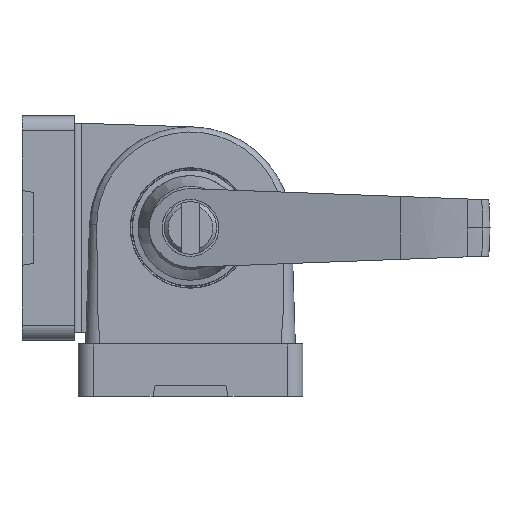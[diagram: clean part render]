
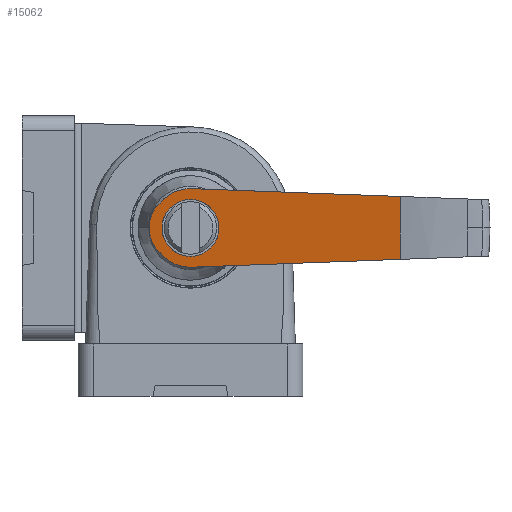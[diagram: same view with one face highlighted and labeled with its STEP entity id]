
A CAD part, front view. The second image highlights one B-rep face of the part: STEP entity #15062.
In plain terms, the highlighted planar face has unit normal (-0.225, -0.974, 0) as drawn and (-0.225, 0.974, 0) by its records, which use the part's own axes.
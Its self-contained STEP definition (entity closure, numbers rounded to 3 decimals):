
#60 = CARTESIAN_POINT ( 'NONE',  ( 0., 7., -3.8 ) ) ;
#93 = VERTEX_POINT ( 'NONE', #11957 ) ;
#528 = LINE ( 'NONE', #10017, #14176 ) ;
#544 = DIRECTION ( 'NONE',  ( 0., 0., 1. ) ) ;
#655 = EDGE_CURVE ( 'NONE', #1608, #6711, #6346, .T. ) ;
#877 =( BOUNDED_CURVE ( )  B_SPLINE_CURVE ( 3, ( #6275, #3956, #7503, #14692 ),
 .UNSPECIFIED., .F., .F. ) 
 B_SPLINE_CURVE_WITH_KNOTS ( ( 4, 4 ),
 ( 4.712, 7.854 ),
 .UNSPECIFIED. ) 
 CURVE ( )  GEOMETRIC_REPRESENTATION_ITEM ( )  RATIONAL_B_SPLINE_CURVE ( ( 1., 0.333, 0.333, 1. ) ) 
 REPRESENTATION_ITEM ( '' )  );
#1194 = EDGE_CURVE ( 'NONE', #5771, #10814, #13118, .T. ) ;
#1211 = ORIENTED_EDGE ( 'NONE', *, *, #12122, .T. ) ;
#1406 = CARTESIAN_POINT ( 'NONE',  ( -4.062, 6.062, 3.327 ) ) ;
#1482 = CARTESIAN_POINT ( 'NONE',  ( 0.393, 7.091, 5.235 ) ) ;
#1503 = ORIENTED_EDGE ( 'NONE', *, *, #655, .F. ) ;
#1532 = VERTEX_POINT ( 'NONE', #12163 ) ;
#1608 = VERTEX_POINT ( 'NONE', #13546 ) ;
#1750 = DIRECTION ( 'NONE',  ( -0.974, -0.225, 0. ) ) ;
#1865 = CARTESIAN_POINT ( 'NONE',  ( -5.259, 5.786, 1.541 ) ) ;
#1920 = EDGE_LOOP ( 'NONE', ( #1211, #11605 ) ) ;
#1933 = CARTESIAN_POINT ( 'NONE',  ( 0.393, 7.091, 5.235 ) ) ;
#1944 = CARTESIAN_POINT ( 'NONE',  ( -5.252, 5.787, -1.538 ) ) ;
#1957 = ORIENTED_EDGE ( 'NONE', *, *, #8458, .T. ) ;
#2008 = ORIENTED_EDGE ( 'NONE', *, *, #8577, .T. ) ;
#2082 = CARTESIAN_POINT ( 'NONE',  ( -5.468, 5.737, -0.63 ) ) ;
#2479 =( BOUNDED_CURVE ( )  B_SPLINE_CURVE ( 3, ( #11251, #14881, #8926, #12409 ),
 .UNSPECIFIED., .F., .F. ) 
 B_SPLINE_CURVE_WITH_KNOTS ( ( 4, 4 ),
 ( 4.712, 5.597 ),
 .UNSPECIFIED. ) 
 CURVE ( )  GEOMETRIC_REPRESENTATION_ITEM ( )  RATIONAL_B_SPLINE_CURVE ( ( 1., 0.936, 0.936, 1. ) ) 
 REPRESENTATION_ITEM ( '' )  );
#2870 = CARTESIAN_POINT ( 'NONE',  ( 7.6, 8.755, 3.8 ) ) ;
#2944 = CARTESIAN_POINT ( 'NONE',  ( -5.019, 5.841, -2.12 ) ) ;
#3017 = CARTESIAN_POINT ( 'NONE',  ( -5.021, 5.841, 2.115 ) ) ;
#3045 = PLANE ( 'NONE',  #4837 ) ;
#3091 = CARTESIAN_POINT ( 'NONE',  ( -5.469, 5.737, 0.623 ) ) ;
#3419 = CARTESIAN_POINT ( 'NONE',  ( 0.393, 7.091, -5.235 ) ) ;
#3494 = CARTESIAN_POINT ( 'NONE',  ( 0.131, 7.03, -5.25 ) ) ;
#3931 = ORIENTED_EDGE ( 'NONE', *, *, #7011, .T. ) ;
#3956 = CARTESIAN_POINT ( 'NONE',  ( -7.6, 5.245, 3.8 ) ) ;
#4045 = CARTESIAN_POINT ( 'NONE',  ( -10., 4.691, 16. ) ) ;
#4078 = DIRECTION ( 'NONE',  ( 0.974, 0.225, -0.037 ) ) ;
#4267 = DIRECTION ( 'NONE',  ( -0.974, -0.225, -0.037 ) ) ;
#4419 = LINE ( 'NONE', #7964, #14410 ) ;
#4462 = CARTESIAN_POINT ( 'NONE',  ( -5.35, 5.765, 1.237 ) ) ;
#4835 = EDGE_LOOP ( 'NONE', ( #1503, #3931, #9565, #2008, #11414, #1957, #7860 ) ) ;
#4837 = AXIS2_PLACEMENT_3D ( 'NONE', #4045, #7524, #1750 ) ;
#5195 = CARTESIAN_POINT ( 'NONE',  ( 0., 7., -5.25 ) ) ;
#5406 = CARTESIAN_POINT ( 'NONE',  ( -4.515, 5.958, -2.895 ) ) ;
#5506 = FACE_BOUND ( 'NONE', #1920, .T. ) ;
#5726 =( BOUNDED_CURVE ( )  B_SPLINE_CURVE ( 3, ( #1406, #12971, #6100, #1482 ),
 .UNSPECIFIED., .F., .T. ) 
 B_SPLINE_CURVE_WITH_KNOTS ( ( 4, 4 ),
 ( 0.686, 1.646 ),
 .UNSPECIFIED. ) 
 CURVE ( )  GEOMETRIC_REPRESENTATION_ITEM ( )  RATIONAL_B_SPLINE_CURVE ( ( 1., 0.925, 0.925, 1. ) ) 
 REPRESENTATION_ITEM ( '' )  );
#5771 = VERTEX_POINT ( 'NONE', #14010 ) ;
#5813 = CARTESIAN_POINT ( 'NONE',  ( 0.262, 7.061, -5.245 ) ) ;
#6100 = CARTESIAN_POINT ( 'NONE',  ( -1.349, 6.689, 5.366 ) ) ;
#6275 = CARTESIAN_POINT ( 'NONE',  ( 0., 7., 3.8 ) ) ;
#6346 = LINE ( 'NONE', #7574, #10461 ) ;
#6566 = CARTESIAN_POINT ( 'NONE',  ( -5.499, 5.73, -0.317 ) ) ;
#6711 = VERTEX_POINT ( 'NONE', #9614 ) ;
#7011 = EDGE_CURVE ( 'NONE', #1608, #5771, #4419, .T. ) ;
#7387 = EDGE_CURVE ( 'NONE', #8309, #8525, #877, .T. ) ;
#7465 = CARTESIAN_POINT ( 'NONE',  ( 0., 7., -5.25 ) ) ;
#7484 = CARTESIAN_POINT ( 'NONE',  ( 7.6, 8.755, -3.8 ) ) ;
#7503 = CARTESIAN_POINT ( 'NONE',  ( -7.6, 5.245, -3.8 ) ) ;
#7524 = DIRECTION ( 'NONE',  ( -0.225, 0.974, 0. ) ) ;
#7574 = CARTESIAN_POINT ( 'NONE',  ( 28.045, 13.475, 16. ) ) ;
#7638 = CARTESIAN_POINT ( 'NONE',  ( -4.871, 5.875, -2.392 ) ) ;
#7782 = CARTESIAN_POINT ( 'NONE',  ( -5.499, 5.73, 0.312 ) ) ;
#7860 = ORIENTED_EDGE ( 'NONE', *, *, #9564, .T. ) ;
#7878 = EDGE_CURVE ( 'NONE', #1532, #93, #13114, .T. ) ;
#7964 = CARTESIAN_POINT ( 'NONE',  ( 28.045, 13.475, -4.198 ) ) ;
#8309 = VERTEX_POINT ( 'NONE', #15214 ) ;
#8458 = EDGE_CURVE ( 'NONE', #1532, #9511, #5726, .T. ) ;
#8525 = VERTEX_POINT ( 'NONE', #60 ) ;
#8577 = EDGE_CURVE ( 'NONE', #10814, #93, #2479, .T. ) ;
#8926 = CARTESIAN_POINT ( 'NONE',  ( -3.047, 6.296, -4.565 ) ) ;
#9022 = CARTESIAN_POINT ( 'NONE',  ( -4.512, 5.958, 2.901 ) ) ;
#9170 = CARTESIAN_POINT ( 'NONE',  ( -5.379, 5.758, -1.088 ) ) ;
#9511 = VERTEX_POINT ( 'NONE', #1933 ) ;
#9564 = EDGE_CURVE ( 'NONE', #9511, #6711, #528, .T. ) ;
#9565 = ORIENTED_EDGE ( 'NONE', *, *, #1194, .T. ) ;
#9614 = CARTESIAN_POINT ( 'NONE',  ( 28.045, 13.475, 4.198 ) ) ;
#9874 = CARTESIAN_POINT ( 'NONE',  ( 0., 7., 3.8 ) ) ;
#10017 = CARTESIAN_POINT ( 'NONE',  ( 0.393, 7.091, 5.235 ) ) ;
#10325 = CARTESIAN_POINT ( 'NONE',  ( -4.305, 6.006, 3.131 ) ) ;
#10461 = VECTOR ( 'NONE', #544, 1000. ) ;
#10814 = VERTEX_POINT ( 'NONE', #7465 ) ;
#11072 = FACE_OUTER_BOUND ( 'NONE', #4835, .T. ) ;
#11251 = CARTESIAN_POINT ( 'NONE',  ( 0., 7., -5.25 ) ) ;
#11269 = CARTESIAN_POINT ( 'NONE',  ( -5.342, 5.767, -1.239 ) ) ;
#11408 = CARTESIAN_POINT ( 'NONE',  ( -5.199, 5.8, -1.687 ) ) ;
#11414 = ORIENTED_EDGE ( 'NONE', *, *, #7878, .F. ) ;
#11605 = ORIENTED_EDGE ( 'NONE', *, *, #7387, .T. ) ;
#11957 = CARTESIAN_POINT ( 'NONE',  ( -4.062, 6.062, -3.327 ) ) ;
#12065 =( BOUNDED_CURVE ( )  B_SPLINE_CURVE ( 3, ( #13370, #7484, #2870, #9874 ),
 .UNSPECIFIED., .F., .F. ) 
 B_SPLINE_CURVE_WITH_KNOTS ( ( 4, 4 ),
 ( 1.571, 4.712 ),
 .UNSPECIFIED. ) 
 CURVE ( )  GEOMETRIC_REPRESENTATION_ITEM ( )  RATIONAL_B_SPLINE_CURVE ( ( 1., 0.333, 0.333, 1. ) ) 
 REPRESENTATION_ITEM ( '' )  );
#12122 = EDGE_CURVE ( 'NONE', #8525, #8309, #12065, .T. ) ;
#12163 = CARTESIAN_POINT ( 'NONE',  ( -4.062, 6.062, 3.327 ) ) ;
#12409 = CARTESIAN_POINT ( 'NONE',  ( -4.062, 6.062, -3.327 ) ) ;
#12508 = CARTESIAN_POINT ( 'NONE',  ( -4.062, 6.062, -3.327 ) ) ;
#12580 = CARTESIAN_POINT ( 'NONE',  ( -4.873, 5.875, 2.39 ) ) ;
#12971 = CARTESIAN_POINT ( 'NONE',  ( -2.955, 6.318, 4.678 ) ) ;
#13114 = B_SPLINE_CURVE_WITH_KNOTS ( 'NONE', 3,
 ( #13589, #10325, #9022, #12580, #3017, #1865, #4462, #3091, #7782, #6566, #2082, #9170, #11269, #1944, #11408, #2944, #7638, #5406, #14823, #12508 ),
 .UNSPECIFIED., .F., .F.,
 ( 4, 2, 2, 2, 2, 2, 2, 2, 2, 4 ),
 ( 0., 0.001, 0.002, 0.003, 0.004, 0.005, 0.005, 0.006, 0.007, 0.008 ),
 .UNSPECIFIED. ) ;
#13118 =( BOUNDED_CURVE ( )  B_SPLINE_CURVE ( 3, ( #3419, #5813, #3494, #5195 ),
 .UNSPECIFIED., .F., .T. ) 
 B_SPLINE_CURVE_WITH_KNOTS ( ( 4, 4 ),
 ( 4.637, 4.712 ),
 .UNSPECIFIED. ) 
 CURVE ( )  GEOMETRIC_REPRESENTATION_ITEM ( )  RATIONAL_B_SPLINE_CURVE ( ( 1., 1., 1., 1. ) ) 
 REPRESENTATION_ITEM ( '' )  );
#13370 = CARTESIAN_POINT ( 'NONE',  ( 0., 7., -3.8 ) ) ;
#13546 = CARTESIAN_POINT ( 'NONE',  ( 28.045, 13.475, -4.198 ) ) ;
#13589 = CARTESIAN_POINT ( 'NONE',  ( -4.062, 6.062, 3.327 ) ) ;
#14010 = CARTESIAN_POINT ( 'NONE',  ( 0.393, 7.091, -5.235 ) ) ;
#14176 = VECTOR ( 'NONE', #4078, 1000. ) ;
#14410 = VECTOR ( 'NONE', #4267, 1000. ) ;
#14692 = CARTESIAN_POINT ( 'NONE',  ( 0., 7., -3.8 ) ) ;
#14823 = CARTESIAN_POINT ( 'NONE',  ( -4.305, 6.006, -3.131 ) ) ;
#14881 = CARTESIAN_POINT ( 'NONE',  ( -1.601, 6.63, -5.25 ) ) ;
#15062 = ADVANCED_FACE ( 'NONE', ( #11072, #5506 ), #3045, .T. ) ;
#15214 = CARTESIAN_POINT ( 'NONE',  ( 0., 7., 3.8 ) ) ;
